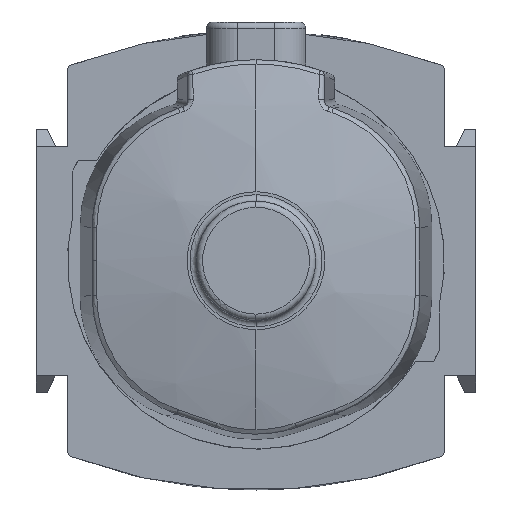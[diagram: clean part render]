
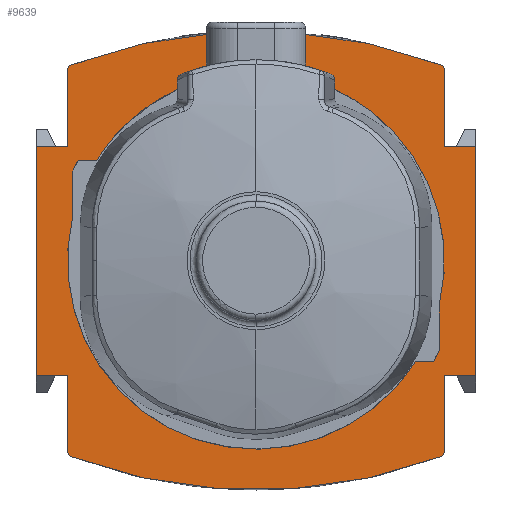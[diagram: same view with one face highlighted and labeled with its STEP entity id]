
A CAD part, front view. The second image highlights one B-rep face of the part: STEP entity #9639.
In plain terms, the highlighted planar face has unit normal (0, -1, 0).
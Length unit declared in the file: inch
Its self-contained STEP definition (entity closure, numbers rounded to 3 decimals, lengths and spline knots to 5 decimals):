
#8182=CIRCLE('',#28587,1.27953);
#8183=CIRCLE('',#28590,1.1811);
#8184=CIRCLE('',#28593,1.27953);
#8185=CIRCLE('',#28596,1.1811);
#8186=CIRCLE('',#28598,1.1811);
#8215=CIRCLE('',#28695,0.03937);
#8217=CIRCLE('',#28698,3.30709);
#8220=CIRCLE('',#28702,0.03937);
#8221=CIRCLE('',#28720,0.03937);
#8222=CIRCLE('',#28721,3.30709);
#8223=CIRCLE('',#28722,0.03937);
#8606=FACE_BOUND('',#12654,.T.);
#9639=ADVANCED_FACE('',(#11527,#8606),#10587,.F.);
#10587=PLANE('',#28723);
#11527=FACE_OUTER_BOUND('',#12653,.T.);
#12653=EDGE_LOOP('',(#15066,#15067,#15068,#15069,#15070,#15071,#15072,#15073,
#15074,#15075,#15076,#15077,#15078,#15079,#15080,#15081));
#12654=EDGE_LOOP('',(#15082,#15083,#15084,#15085,#15086,#15087,#15088,#15089,
#15090));
#15066=ORIENTED_EDGE('',*,*,#22257,.F.);
#15067=ORIENTED_EDGE('',*,*,#22258,.T.);
#15068=ORIENTED_EDGE('',*,*,#22259,.T.);
#15069=ORIENTED_EDGE('',*,*,#22260,.T.);
#15070=ORIENTED_EDGE('',*,*,#22261,.F.);
#15071=ORIENTED_EDGE('',*,*,#22191,.T.);
#15072=ORIENTED_EDGE('',*,*,#22183,.F.);
#15073=ORIENTED_EDGE('',*,*,#22188,.T.);
#15074=ORIENTED_EDGE('',*,*,#22262,.F.);
#15075=ORIENTED_EDGE('',*,*,#22195,.T.);
#15076=ORIENTED_EDGE('',*,*,#22200,.T.);
#15077=ORIENTED_EDGE('',*,*,#22204,.T.);
#15078=ORIENTED_EDGE('',*,*,#22263,.F.);
#15079=ORIENTED_EDGE('',*,*,#22214,.T.);
#15080=ORIENTED_EDGE('',*,*,#22251,.F.);
#15081=ORIENTED_EDGE('',*,*,#22255,.T.);
#15082=ORIENTED_EDGE('',*,*,#21994,.T.);
#15083=ORIENTED_EDGE('',*,*,#21992,.T.);
#15084=ORIENTED_EDGE('',*,*,#21990,.T.);
#15085=ORIENTED_EDGE('',*,*,#21988,.T.);
#15086=ORIENTED_EDGE('',*,*,#21986,.T.);
#15087=ORIENTED_EDGE('',*,*,#21984,.T.);
#15088=ORIENTED_EDGE('',*,*,#21982,.T.);
#15089=ORIENTED_EDGE('',*,*,#21980,.T.);
#15090=ORIENTED_EDGE('',*,*,#21977,.T.);
#19834=VERTEX_POINT('',#38431);
#19835=VERTEX_POINT('',#38432);
#19836=VERTEX_POINT('',#38437);
#19837=VERTEX_POINT('',#38441);
#19838=VERTEX_POINT('',#38445);
#19839=VERTEX_POINT('',#38449);
#19840=VERTEX_POINT('',#38453);
#19841=VERTEX_POINT('',#38457);
#19842=VERTEX_POINT('',#38461);
#19978=VERTEX_POINT('',#39632);
#19979=VERTEX_POINT('',#39634);
#19982=VERTEX_POINT('',#39642);
#19984=VERTEX_POINT('',#39649);
#19987=VERTEX_POINT('',#39656);
#19988=VERTEX_POINT('',#39658);
#19992=VERTEX_POINT('',#39668);
#19994=VERTEX_POINT('',#39675);
#20003=VERTEX_POINT('',#39697);
#20004=VERTEX_POINT('',#39699);
#20028=VERTEX_POINT('',#39771);
#20030=VERTEX_POINT('',#39778);
#20031=VERTEX_POINT('',#39783);
#20032=VERTEX_POINT('',#39785);
#20033=VERTEX_POINT('',#39787);
#20034=VERTEX_POINT('',#39789);
#21977=EDGE_CURVE('',#19834,#19835,#8182,.T.);
#21980=EDGE_CURVE('',#19836,#19834,#24611,.T.);
#21982=EDGE_CURVE('',#19837,#19836,#8183,.T.);
#21984=EDGE_CURVE('',#19838,#19837,#24614,.T.);
#21986=EDGE_CURVE('',#19839,#19838,#8184,.T.);
#21988=EDGE_CURVE('',#19840,#19839,#24617,.T.);
#21990=EDGE_CURVE('',#19841,#19840,#8185,.T.);
#21992=EDGE_CURVE('',#19842,#19841,#8186,.T.);
#21994=EDGE_CURVE('',#19835,#19842,#24621,.T.);
#22183=EDGE_CURVE('',#19978,#19979,#24726,.T.);
#22188=EDGE_CURVE('',#19978,#19982,#24731,.T.);
#22191=EDGE_CURVE('',#19984,#19979,#24734,.T.);
#22195=EDGE_CURVE('',#19988,#19987,#8215,.T.);
#22200=EDGE_CURVE('',#19987,#19992,#8217,.T.);
#22204=EDGE_CURVE('',#19992,#19994,#8220,.T.);
#22214=EDGE_CURVE('',#20004,#20003,#24749,.T.);
#22251=EDGE_CURVE('',#20028,#20003,#24786,.T.);
#22255=EDGE_CURVE('',#20028,#20030,#24790,.T.);
#22257=EDGE_CURVE('',#20031,#20030,#24792,.T.);
#22258=EDGE_CURVE('',#20031,#20032,#8221,.T.);
#22259=EDGE_CURVE('',#20032,#20033,#8222,.T.);
#22260=EDGE_CURVE('',#20033,#20034,#8223,.T.);
#22261=EDGE_CURVE('',#19984,#20034,#24793,.T.);
#22262=EDGE_CURVE('',#19988,#19982,#24794,.T.);
#22263=EDGE_CURVE('',#20004,#19994,#24795,.T.);
#24611=LINE('',#38436,#26561);
#24614=LINE('',#38444,#26564);
#24617=LINE('',#38452,#26567);
#24621=LINE('',#38464,#26571);
#24726=LINE('',#39633,#26689);
#24731=LINE('',#39643,#26694);
#24734=LINE('',#39648,#26697);
#24749=LINE('',#39698,#26712);
#24786=LINE('',#39772,#26749);
#24790=LINE('',#39779,#26753);
#24792=LINE('',#39782,#26755);
#24793=LINE('',#39790,#26756);
#24794=LINE('',#39791,#26757);
#24795=LINE('',#39792,#26758);
#26561=VECTOR('',#30602,1.);
#26564=VECTOR('',#30611,1.);
#26567=VECTOR('',#30620,1.);
#26571=VECTOR('',#30634,1.);
#26689=VECTOR('',#30934,1.);
#26694=VECTOR('',#30941,1.);
#26697=VECTOR('',#30946,1.);
#26712=VECTOR('',#30987,1.);
#26749=VECTOR('',#31048,1.);
#26753=VECTOR('',#31054,1.);
#26755=VECTOR('',#31058,1.);
#26756=VECTOR('',#31065,1.);
#26757=VECTOR('',#31066,1.);
#26758=VECTOR('',#31067,1.);
#28587=AXIS2_PLACEMENT_3D('',#38430,#30596,#30597);
#28590=AXIS2_PLACEMENT_3D('',#38440,#30606,#30607);
#28593=AXIS2_PLACEMENT_3D('',#38448,#30615,#30616);
#28596=AXIS2_PLACEMENT_3D('',#38456,#30624,#30625);
#28598=AXIS2_PLACEMENT_3D('',#38460,#30629,#30630);
#28695=AXIS2_PLACEMENT_3D('',#39657,#30953,#30954);
#28698=AXIS2_PLACEMENT_3D('',#39669,#30961,#30962);
#28702=AXIS2_PLACEMENT_3D('',#39676,#30970,#30971);
#28720=AXIS2_PLACEMENT_3D('',#39784,#31059,#31060);
#28721=AXIS2_PLACEMENT_3D('',#39786,#31061,#31062);
#28722=AXIS2_PLACEMENT_3D('',#39788,#31063,#31064);
#28723=AXIS2_PLACEMENT_3D('',#39793,#31068,#31069);
#30596=DIRECTION('',(0.,1.,0.));
#30597=DIRECTION('',(0.,0.,1.));
#30602=DIRECTION('',(0.,0.,1.));
#30606=DIRECTION('',(0.,1.,0.));
#30607=DIRECTION('',(0.,0.,1.));
#30611=DIRECTION('',(-1.,0.,0.));
#30615=DIRECTION('',(0.,1.,0.));
#30616=DIRECTION('',(0.,0.,1.));
#30620=DIRECTION('',(0.,0.,-1.));
#30624=DIRECTION('',(0.,1.,0.));
#30625=DIRECTION('',(0.,0.,1.));
#30629=DIRECTION('',(0.,1.,0.));
#30630=DIRECTION('',(0.,0.,1.));
#30634=DIRECTION('',(1.,0.,0.));
#30934=DIRECTION('',(0.,0.,1.));
#30941=DIRECTION('',(1.,0.,0.));
#30946=DIRECTION('',(-1.,0.,0.));
#30953=DIRECTION('',(0.,-1.,0.));
#30954=DIRECTION('',(0.,0.,1.));
#30961=DIRECTION('',(0.,-1.,0.));
#30962=DIRECTION('',(0.,0.,1.));
#30970=DIRECTION('',(0.,-1.,0.));
#30971=DIRECTION('',(0.,0.,1.));
#30987=DIRECTION('',(1.,0.,0.));
#31048=DIRECTION('',(0.,0.,-1.));
#31054=DIRECTION('',(-1.,0.,0.));
#31058=DIRECTION('',(0.,0.,-1.));
#31059=DIRECTION('',(0.,-1.,0.));
#31060=DIRECTION('',(0.,0.,1.));
#31061=DIRECTION('',(0.,-1.,0.));
#31062=DIRECTION('',(0.,0.,1.));
#31063=DIRECTION('',(0.,-1.,0.));
#31064=DIRECTION('',(0.,0.,1.));
#31065=DIRECTION('',(0.,0.,1.));
#31066=DIRECTION('',(0.,0.,1.));
#31067=DIRECTION('',(0.,0.,-1.));
#31068=DIRECTION('',(0.,1.,0.));
#31069=DIRECTION('',(0.,0.,1.));
#38430=CARTESIAN_POINT('',(0.,0.,0.));
#38431=CARTESIAN_POINT('',(-1.14963,0.,0.56173));
#38432=CARTESIAN_POINT('',(-1.11373,0.,0.62992));
#38436=CARTESIAN_POINT('',(-1.14963,0.,0.56173));
#38437=CARTESIAN_POINT('',(-1.14963,0.,0.27084));
#38440=CARTESIAN_POINT('',(0.,0.,0.));
#38441=CARTESIAN_POINT('',(0.9991,0.,-0.62992));
#38444=CARTESIAN_POINT('',(0.9991,0.,-0.62992));
#38445=CARTESIAN_POINT('',(1.11373,0.,-0.62992));
#38448=CARTESIAN_POINT('',(0.,0.,0.));
#38449=CARTESIAN_POINT('',(1.14963,0.,-0.56173));
#38452=CARTESIAN_POINT('',(1.14963,0.,-0.56173));
#38453=CARTESIAN_POINT('',(1.14963,0.,-0.27084));
#38456=CARTESIAN_POINT('',(0.,0.,0.));
#38457=CARTESIAN_POINT('',(0.,0.,1.1811));
#38460=CARTESIAN_POINT('',(0.,0.,0.));
#38461=CARTESIAN_POINT('',(-0.9991,0.,0.62992));
#38464=CARTESIAN_POINT('',(-0.9991,0.,0.62992));
#39632=CARTESIAN_POINT('',(-1.37795,0.,-0.7185));
#39633=CARTESIAN_POINT('',(-1.37795,0.,-1.43701));
#39634=CARTESIAN_POINT('',(-1.37795,0.,0.7185));
#39642=CARTESIAN_POINT('',(-1.1811,0.,-0.7185));
#39643=CARTESIAN_POINT('',(-1.37795,0.,-0.7185));
#39648=CARTESIAN_POINT('',(-1.1811,0.,0.7185));
#39649=CARTESIAN_POINT('',(-1.1811,0.,0.7185));
#39656=CARTESIAN_POINT('',(-1.15549,0.,-1.22858));
#39657=CARTESIAN_POINT('',(-1.14173,0.,-1.19169));
#39658=CARTESIAN_POINT('',(-1.1811,0.,-1.19169));
#39668=CARTESIAN_POINT('',(1.15549,0.,-1.22858));
#39669=CARTESIAN_POINT('',(0.,0.,1.87008));
#39675=CARTESIAN_POINT('',(1.1811,0.,-1.19169));
#39676=CARTESIAN_POINT('',(1.14173,0.,-1.19169));
#39697=CARTESIAN_POINT('',(1.37795,0.,-0.7185));
#39698=CARTESIAN_POINT('',(1.1811,0.,-0.7185));
#39699=CARTESIAN_POINT('',(1.1811,0.,-0.7185));
#39771=CARTESIAN_POINT('',(1.37795,0.,0.7185));
#39772=CARTESIAN_POINT('',(1.37795,0.,-1.43701));
#39778=CARTESIAN_POINT('',(1.1811,0.,0.7185));
#39779=CARTESIAN_POINT('',(1.37795,0.,0.7185));
#39782=CARTESIAN_POINT('',(1.1811,0.,1.2189));
#39783=CARTESIAN_POINT('',(1.1811,0.,1.19169));
#39784=CARTESIAN_POINT('',(1.14173,0.,1.19169));
#39785=CARTESIAN_POINT('',(1.15549,0.,1.22858));
#39786=CARTESIAN_POINT('',(0.,0.,-1.87008));
#39787=CARTESIAN_POINT('',(-1.15549,0.,1.22858));
#39788=CARTESIAN_POINT('',(-1.14173,0.,1.19169));
#39789=CARTESIAN_POINT('',(-1.1811,0.,1.19169));
#39790=CARTESIAN_POINT('',(-1.1811,0.,1.2189));
#39791=CARTESIAN_POINT('',(-1.1811,0.,-1.2189));
#39792=CARTESIAN_POINT('',(1.1811,0.,-1.2189));
#39793=CARTESIAN_POINT('',(-1.37795,0.,1.43701));
